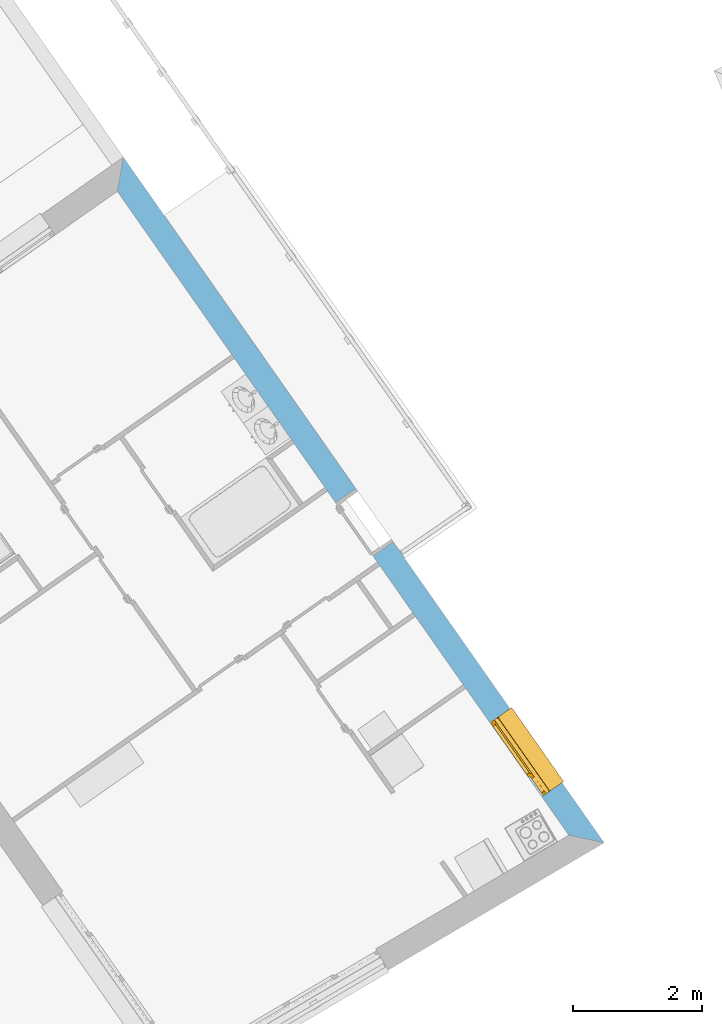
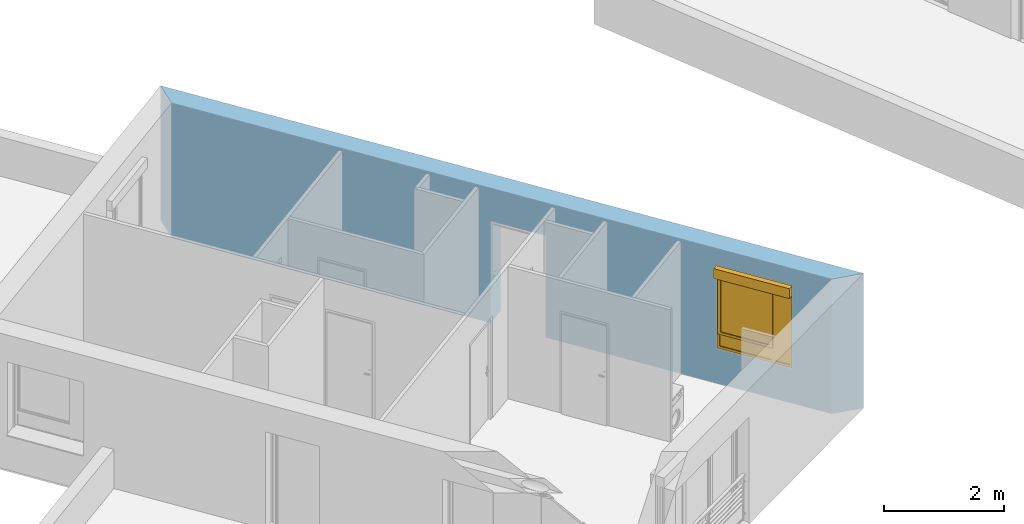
# One storey, part 29 of 121: 1 window, 2 openings, plus 1 element that does not belong to this part.
"""IFC2X3 building model written with IfcOpenShell, lengths in metres."""

from ifc_helpers import new_model, entity, si_unit, converted_unit, derived_unit, money_unit, direction, frame, origin_with_axes, origin_2d_with_axis, place, context, subcontext, project, spatial, polyline, rectangle, outline, extrude, open_shell, faceted_brep, surface_model, source, transform, mapped, material, layer, layer_set, layer_usage, type_object, element, fill, save


model = new_model("IFC2X3")

# Units and contexts
model_context = context("Model", 3, precision=1e-05, world=origin_with_axes(), true_north=direction((0.0, 1.0)))
body_context = subcontext(model_context, "Body", "Model", "MODEL_VIEW")
ifc_project = project(units=[si_unit("LENGTHUNIT", "METRE"), si_unit("AREAUNIT", "SQUARE_METRE"), si_unit("VOLUMEUNIT", "CUBIC_METRE"), converted_unit("PLANEANGLEUNIT", "DEGREE", entity("IfcPlaneAngleMeasure", 0.0174532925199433), si_unit("PLANEANGLEUNIT", "RADIAN"), dimensions=[0, 0, 0, 0, 0, 0, 0]), money_unit("CHF"), converted_unit("TIMEUNIT", "Year", entity("IfcTimeMeasure", 31557600.0), si_unit("TIMEUNIT", "SECOND"), dimensions=[0, 0, 1, 0, 0, 0, 0]), si_unit("MASSUNIT", "GRAM", prefix="KILO"), si_unit("THERMODYNAMICTEMPERATUREUNIT", "DEGREE_CELSIUS"), si_unit("LUMINOUSINTENSITYUNIT", "LUMEN"), si_unit("ENERGYUNIT", "JOULE", prefix="MEGA"), derived_unit("THERMALCONDUCTANCEUNIT", [(si_unit("POWERUNIT", "WATT"), 1), (si_unit("LENGTHUNIT", "METRE"), -1), (si_unit("THERMODYNAMICTEMPERATUREUNIT", "KELVIN"), -1)]), derived_unit("SPECIFICHEATCAPACITYUNIT", [(si_unit("ENERGYUNIT", "JOULE"), 1), (si_unit("MASSUNIT", "GRAM", prefix="KILO"), -1), (si_unit("THERMODYNAMICTEMPERATUREUNIT", "KELVIN"), -1)]), derived_unit("MASSDENSITYUNIT", [(si_unit("MASSUNIT", "GRAM", prefix="KILO"), 1), (si_unit("VOLUMEUNIT", "CUBIC_METRE"), -1)])], contexts=[model_context])

# Site, building, storey
site_placement = place(None, origin_with_axes())
site = spatial("IfcSite", under=ifc_project, at=site_placement, Name="Site", CompositionType="ELEMENT")
building_placement = place(site_placement, origin_with_axes())
building = spatial("IfcBuilding", under=site, at=building_placement, Name="Bâtiment", CompositionType="ELEMENT")
storey_placement = place(building_placement, frame((0.0, 0.0, 2.75), z_axis=(0.0, 0.0, 1.0), x_axis=(1.0, 0.0, 0.0)))
storey = spatial("IfcBuildingStorey", under=building, at=storey_placement, Name="Etage 1", CompositionType="ELEMENT", Elevation=2.75)

# Wall, openings, window
ifc_material_1 = material(Name="Parpaing 312445824")
ifc_layer_1 = layer(ifc_material_1, 0.22, ventilated="UNKNOWN")
ifc_material_2 = material(Name="Isolant styromousse 301821074")
ifc_layer_2 = layer(ifc_material_2, 0.16, ventilated="UNKNOWN")
ifc_layer_set = layer_set([ifc_layer_1, ifc_layer_2], Name="isol int 22+16 0836643197")
ifc_layer_usage = layer_usage(ifc_layer_set, "AXIS2", "NEGATIVE", 0.0)
wall_type = type_object("IfcWallType", Name="isol int 22+16 0836643197 380", PredefinedType="NOTDEFINED")
wall_placement = place(storey_placement, frame((9555.643873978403, -1059.576602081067, 57.7), z_axis=(0.0, 0.0, 1.0), x_axis=(0.5741598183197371, -0.8187432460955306, 0.0)))
wall = element("IfcWallStandardCase", 1, at=wall_placement, inside=storey, type_object=wall_type, material=ifc_layer_usage, Name="Mur-113", context=body_context, shape_type="SweptSolid", body=[
    extrude(outline(polyline([(0.3800000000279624, -0.3799999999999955), (12.545933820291, -0.3799999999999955), (12.95727342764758, 0.0), (0.0, 0.0), (0.3800000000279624, -0.3799999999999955)])), origin_with_axes(), (0.0, 0.0, 1.0), 2.75),
])
opening_1_placement = place(wall_placement, frame((11.11977432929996, 0.0, 0.7000000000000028), z_axis=(0.0, 0.0, 1.0), x_axis=(1.0, 0.0, 0.0)))
opening_1 = element("IfcOpeningElement", 2, at=opening_1_placement, cuts=wall, Name="Fen-045", context=body_context, shape_type="Brep", body=[
    faceted_brep([(-0.6999999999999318, -0.2200000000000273, 1.5), (0.7000000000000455, -0.2200000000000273, 1.5), (0.6999999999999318, 6.092077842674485, 1.5), (-0.7000000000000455, 6.092077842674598, 1.5), (-0.6999999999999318, -0.2200000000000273, 1.700000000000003), (0.7000000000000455, -0.2200000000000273, 1.700000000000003), (0.7000000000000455, -0.3000000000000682, 1.5), (0.7000000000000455, -0.3000000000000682, 0.0), (0.6999999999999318, 6.092077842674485, 0.0), (-0.7000000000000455, 6.092077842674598, 0.0), (-0.7000000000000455, -0.3000000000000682, 1.5), (-0.7000000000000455, -0.3000000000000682, 0.0), (-0.6999999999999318, -0.4800000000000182, 1.5), (-0.6999999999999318, -0.4800000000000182, 1.700000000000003), (0.7000000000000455, -0.4800000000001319, 1.700000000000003), (0.7000000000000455, -0.4800000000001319, 1.5), (0.7000000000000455, -6.472077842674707, 1.5), (0.7000000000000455, -6.472077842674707, 0.0), (-0.7000000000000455, -6.472077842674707, 0.0), (-0.7000000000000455, -6.472077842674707, 1.5)], [[[0, 1, 2, 3]], [[1, 0, 4, 5]], [[1, 6, 7, 8, 2]], [[2, 8, 9, 3]], [[10, 0, 3, 9, 11]], [[0, 10, 12, 13, 4]], [[14, 5, 4, 13]], [[6, 1, 5, 14, 15]], [[6, 15, 16, 17, 7]], [[11, 9, 8, 7, 17, 18]], [[12, 10, 11, 18, 19]], [[12, 15, 14, 13]], [[15, 12, 19, 16]], [[19, 18, 17, 16]]]),
])
opening_2_placement = place(wall_placement, frame((6.767124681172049, 0.0, 0.0), z_axis=(0.0, 0.0, 1.0), x_axis=(1.0, 0.0, 0.0)))
element("IfcOpeningElement", 3, at=opening_2_placement, cuts=wall, Name="Por-293", context=body_context, shape_type="SweptSolid", body=[
    extrude(rectangle(XDim=1.01000001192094, YDim=2.079999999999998, at=origin_2d_with_axis()), frame((5.960487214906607e-09, 0.3800000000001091, 1.039999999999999), z_axis=(0.0, 1.0, 0.0), x_axis=(1.0, 0.0, 0.0)), (0.0, 0.0, -1.0), 0.76),
])
window_style = type_object("IfcWindowStyle", Name="Fenêtre variable 27", ConstructionType="NOTDEFINED", OperationType="TRIPLE_PANEL_LEFT", ParameterTakesPrecedence=False, Sizeable=False)
shared_shape = source(origin_with_axes(), body_context, "Body", "SurfaceModel", [
    surface_model("IfcShellBasedSurfaceModel", [(0.7, -0.05100000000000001, 0.05), (-0.7, -0.05100000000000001, 0.05000000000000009), (-0.7, -0.05100000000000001, 0.04000000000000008), (0.7, -0.05100000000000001, 0.04), (-0.7, -0.3799999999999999, 0.02900000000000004), (0.7, -0.3799999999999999, 0.02899999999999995), (-0.7, -0.3799999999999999, 0.00900000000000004), (0.7, -0.3799999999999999, 0.008999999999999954), (-0.7, -0.3699999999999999, 0.01900000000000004), (0.7, -0.3699999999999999, 0.01899999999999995)], [open_shell([[[0, 1, 2, 3]], [[3, 2, 4, 5]], [[5, 4, 6, 7]], [[7, 6, 8, 9]]])]),
    faceted_brep([(0.7, -0.13, 1.7), (0.7, 0.13, 1.7), (0.697, 0.13, 1.7), (0.697, -0.13, 1.7), (0.7, -0.13, 1.5), (0.7, 0.13, 1.5), (0.697, 0.13, 1.5), (0.697, -0.13, 1.5)], [[[0, 1, 2, 3]], [[0, 4, 5, 1]], [[1, 5, 6, 2]], [[3, 2, 6, 7]], [[4, 0, 3, 7]], [[5, 4, 7, 6]]]),
    faceted_brep([(-0.6970000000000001, -0.1299999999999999, 1.7), (-0.6970000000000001, 0.1300000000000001, 1.7), (-0.7000000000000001, 0.1300000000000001, 1.7), (-0.7000000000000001, -0.1299999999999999, 1.7), (-0.6970000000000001, -0.1299999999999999, 1.5), (-0.6970000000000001, 0.1300000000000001, 1.5), (-0.7000000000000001, 0.1300000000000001, 1.5), (-0.7000000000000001, -0.1299999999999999, 1.5)], [[[0, 1, 2, 3]], [[0, 4, 5, 1]], [[1, 5, 6, 2]], [[3, 2, 6, 7]], [[4, 0, 3, 7]], [[5, 4, 7, 6]]]),
    faceted_brep([(0.697, -0.13, 1.5), (0.697, -0.13, 1.7), (-0.697, -0.1299999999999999, 1.7), (-0.697, -0.1299999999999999, 1.5), (0.697, -0.127, 1.5), (0.697, -0.127, 1.697), (0.697, 0.127, 1.697), (0.697, 0.127, 1.503), (0.697, -0.108, 1.503), (0.697, -0.108, 1.5), (0.697, 0.13, 1.5), (0.697, 0.13, 1.7), (-0.697, 0.1300000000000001, 1.7), (-0.697, 0.1300000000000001, 1.5), (-0.697, -0.1079999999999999, 1.5), (-0.697, -0.1079999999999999, 1.503), (-0.697, 0.1270000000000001, 1.503), (-0.697, 0.1270000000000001, 1.697), (-0.697, -0.1269999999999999, 1.697), (-0.697, -0.1269999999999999, 1.5)], [[[0, 1, 2, 3]], [[0, 4, 5, 6, 7, 8, 9, 10, 11, 1]], [[1, 11, 12, 2]], [[3, 2, 12, 13, 14, 15, 16, 17, 18, 19]], [[4, 0, 3, 19]], [[5, 4, 19, 18]], [[6, 5, 18, 17]], [[7, 6, 17, 16]], [[8, 7, 16, 15]], [[9, 8, 15, 14]], [[10, 9, 14, 13]], [[11, 10, 13, 12]]]),
    faceted_brep([(0.694, -0.08075423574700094, 1.585760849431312), (0.694, -0.07705479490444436, 1.571954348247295), (0.694, -0.07101408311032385, 1.559), (0.694, -0.06281564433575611, 1.547291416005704), (0.694, -0.05270858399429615, 1.537184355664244), (0.694, -0.04099999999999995, 1.528985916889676), (0.694, -0.02804565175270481, 1.522945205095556), (0.694, -0.01423915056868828, 1.519245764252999), (0.694, 0.0, 1.518), (0.694, 0.01423915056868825, 1.519245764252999), (0.694, 0.02804565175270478, 1.522945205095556), (0.694, 0.04099999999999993, 1.528985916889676), (0.694, 0.05270858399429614, 1.537184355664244), (0.694, 0.06281564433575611, 1.547291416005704), (0.694, 0.07101408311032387, 1.559), (0.694, 0.07705479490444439, 1.571954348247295), (0.694, 0.08075423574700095, 1.585760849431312), (0.694, 0.0819999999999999, 1.6), (0.694, 0.08075423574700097, 1.614239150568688), (0.694, 0.0770547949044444, 1.628045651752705), (0.694, 0.07101408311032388, 1.641), (0.694, 0.06281564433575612, 1.652708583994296), (0.694, 0.05270858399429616, 1.662815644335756), (0.694, 0.04099999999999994, 1.671014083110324), (0.694, 0.02804565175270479, 1.677054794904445), (0.694, 0.01423915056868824, 1.680754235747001), (0.694, 0.0, 1.682), (0.694, -0.01423915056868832, 1.680754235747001), (0.694, -0.02804565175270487, 1.677054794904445), (0.694, -0.04100000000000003, 1.671014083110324), (0.694, -0.05270858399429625, 1.662815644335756), (0.694, -0.06281564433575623, 1.652708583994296), (0.694, -0.07101408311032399, 1.641), (0.694, -0.07705479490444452, 1.628045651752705), (0.694, -0.0807542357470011, 1.614239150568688), (0.694, -0.08200000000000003, 1.6), (-0.694, -0.08075423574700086, 1.585760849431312), (-0.694, -0.07705479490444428, 1.571954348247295), (-0.694, -0.07101408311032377, 1.559), (-0.694, -0.06281564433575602, 1.547291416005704), (-0.694, -0.05270858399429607, 1.537184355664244), (-0.694, -0.04099999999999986, 1.528985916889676), (-0.694, -0.02804565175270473, 1.522945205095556), (-0.694, -0.0142391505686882, 1.519245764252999), (-0.694, 0.0, 1.518), (-0.694, 0.01423915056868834, 1.519245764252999), (-0.694, 0.02804565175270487, 1.522945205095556), (-0.694, 0.04100000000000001, 1.528985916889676), (-0.694, 0.05270858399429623, 1.537184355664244), (-0.694, 0.06281564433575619, 1.547291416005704), (-0.694, 0.07101408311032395, 1.559), (-0.694, 0.07705479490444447, 1.571954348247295), (-0.694, 0.08075423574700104, 1.585760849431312), (-0.694, 0.08199999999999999, 1.6), (-0.694, 0.08075423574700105, 1.614239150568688), (-0.694, 0.07705479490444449, 1.628045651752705), (-0.694, 0.07101408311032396, 1.641), (-0.694, 0.0628156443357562, 1.652708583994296), (-0.694, 0.05270858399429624, 1.662815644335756), (-0.694, 0.04100000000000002, 1.671014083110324), (-0.694, 0.02804565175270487, 1.677054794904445), (-0.694, 0.01423915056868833, 1.680754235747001), (-0.694, 0.0, 1.682), (-0.694, -0.01423915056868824, 1.680754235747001), (-0.694, -0.02804565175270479, 1.677054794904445), (-0.694, -0.04099999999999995, 1.671014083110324), (-0.694, -0.05270858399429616, 1.662815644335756), (-0.694, -0.06281564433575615, 1.652708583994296), (-0.694, -0.07101408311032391, 1.641), (-0.694, -0.07705479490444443, 1.628045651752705), (-0.694, -0.08075423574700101, 1.614239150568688), (-0.694, -0.08199999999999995, 1.6)], [[[0, 1, 2, 3, 4, 5, 6, 7, 8, 9, 10, 11, 12, 13, 14, 15, 16, 17, 18, 19, 20, 21, 22, 23, 24, 25, 26, 27, 28, 29, 30, 31, 32, 33, 34, 35]], [[1, 0, 36, 37]], [[2, 1, 37, 38]], [[3, 2, 38, 39]], [[4, 3, 39, 40]], [[5, 4, 40, 41]], [[6, 5, 41, 42]], [[7, 6, 42, 43]], [[8, 7, 43, 44]], [[9, 8, 44, 45]], [[10, 9, 45, 46]], [[11, 10, 46, 47]], [[12, 11, 47, 48]], [[13, 12, 48, 49]], [[14, 13, 49, 50]], [[15, 14, 50, 51]], [[16, 15, 51, 52]], [[17, 16, 52, 53]], [[18, 17, 53, 54]], [[19, 18, 54, 55]], [[20, 19, 55, 56]], [[21, 20, 56, 57]], [[22, 21, 57, 58]], [[23, 22, 58, 59]], [[24, 23, 59, 60]], [[25, 24, 60, 61]], [[26, 25, 61, 62]], [[27, 26, 62, 63]], [[28, 27, 63, 64]], [[29, 28, 64, 65]], [[30, 29, 65, 66]], [[31, 30, 66, 67]], [[32, 31, 67, 68]], [[33, 32, 68, 69]], [[34, 33, 69, 70]], [[35, 34, 70, 71]], [[0, 35, 71, 36]], [[36, 71, 70, 69, 68, 67, 66, 65, 64, 63, 62, 61, 60, 59, 58, 57, 56, 55, 54, 53, 52, 51, 50, 49, 48, 47, 46, 45, 44, 43, 42, 41, 40, 39, 38, 37]]]),
    faceted_brep([(-0.7, -0.105, 0.03), (-0.7, -0.13, 0.03), (-0.7, -0.1299999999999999, 1.5), (-0.7, -0.1049999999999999, 1.5), (-0.6749999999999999, -0.105, 0.03), (-0.6749999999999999, -0.108, 0.03), (-0.697, -0.108, 0.03), (-0.697, -0.127, 0.03), (-0.6749999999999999, -0.127, 0.03), (-0.6749999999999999, -0.13, 0.03), (-0.6749999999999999, -0.1299999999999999, 1.5), (-0.6749999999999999, -0.1269999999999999, 1.5), (-0.697, -0.1269999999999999, 1.5), (-0.697, -0.1079999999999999, 1.5), (-0.6749999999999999, -0.1079999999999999, 1.5), (-0.6749999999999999, -0.1049999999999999, 1.5)], [[[0, 1, 2, 3]], [[0, 4, 5, 6, 7, 8, 9, 1]], [[1, 9, 10, 2]], [[3, 2, 10, 11, 12, 13, 14, 15]], [[4, 0, 3, 15]], [[5, 4, 15, 14]], [[6, 5, 14, 13]], [[7, 6, 13, 12]], [[8, 7, 12, 11]], [[9, 8, 11, 10]]]),
    faceted_brep([(0.7, -0.105, 0.03), (0.7, -0.1049999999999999, 1.5), (0.7, -0.1299999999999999, 1.5), (0.7, -0.13, 0.03), (0.6749999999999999, -0.105, 0.03), (0.6749999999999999, -0.1049999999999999, 1.5), (0.6749999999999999, -0.1079999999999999, 1.5), (0.697, -0.1079999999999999, 1.5), (0.697, -0.1269999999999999, 1.5), (0.6749999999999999, -0.1269999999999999, 1.5), (0.6749999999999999, -0.1299999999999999, 1.5), (0.6749999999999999, -0.13, 0.03), (0.6749999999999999, -0.127, 0.03), (0.697, -0.127, 0.03), (0.697, -0.108, 0.03), (0.6749999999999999, -0.108, 0.03)], [[[0, 1, 2, 3]], [[4, 5, 1, 0]], [[1, 5, 6, 7, 8, 9, 10, 2]], [[3, 2, 10, 11]], [[0, 3, 11, 12, 13, 14, 15, 4]], [[15, 6, 5, 4]], [[14, 7, 6, 15]], [[13, 8, 7, 14]], [[12, 9, 8, 13]], [[11, 10, 9, 12]]]),
    surface_model("IfcShellBasedSurfaceModel", [(0.697, -0.115, 1.6), (-0.697, -0.1149999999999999, 1.6), (-0.697, -0.12, 1.6), (0.697, -0.12, 1.6), (0.697, -0.115, 1.6), (0.697, -0.12, 1.6), (-0.697, -0.1199999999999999, 1.6), (-0.697, -0.1149999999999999, 1.6)], [open_shell([[[0, 1, 2, 3]], [[4, 5, 6, 7]]])]),
    faceted_brep([(0.697, -0.115, 1.6), (0.697, -0.1166666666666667, 1.583333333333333), (-0.697, -0.1166666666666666, 1.583333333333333), (-0.697, -0.1149999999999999, 1.6), (0.697, -0.12, 1.6), (0.697, -0.1216666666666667, 1.583333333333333), (0.697, -0.1216666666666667, 1.566666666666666), (0.697, -0.12, 1.55), (0.697, -0.115, 1.55), (0.697, -0.1166666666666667, 1.566666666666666), (-0.697, -0.1166666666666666, 1.566666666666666), (-0.697, -0.1149999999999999, 1.55), (-0.697, -0.1199999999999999, 1.55), (-0.697, -0.1216666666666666, 1.566666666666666), (-0.697, -0.1216666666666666, 1.583333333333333), (-0.697, -0.1199999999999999, 1.6)], [[[0, 1, 2, 3]], [[0, 4, 5, 6, 7, 8, 9, 1]], [[1, 9, 10, 2]], [[3, 2, 10, 11, 12, 13, 14, 15]], [[4, 0, 3, 15]], [[5, 4, 15, 14]], [[6, 5, 14, 13]], [[7, 6, 13, 12]], [[8, 7, 12, 11]], [[9, 8, 11, 10]]]),
    faceted_brep([(0.697, -0.115, 1.55), (0.697, -0.1166666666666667, 1.533333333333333), (-0.697, -0.1166666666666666, 1.533333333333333), (-0.697, -0.1149999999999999, 1.55), (0.697, -0.12, 1.55), (0.697, -0.1216666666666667, 1.533333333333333), (0.697, -0.1216666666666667, 1.516666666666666), (0.697, -0.12, 1.5), (0.697, -0.115, 1.5), (0.697, -0.1166666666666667, 1.516666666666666), (-0.697, -0.1166666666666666, 1.516666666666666), (-0.697, -0.1149999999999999, 1.5), (-0.697, -0.1199999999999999, 1.5), (-0.697, -0.1216666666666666, 1.516666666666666), (-0.697, -0.1216666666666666, 1.533333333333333), (-0.697, -0.1199999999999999, 1.55)], [[[0, 1, 2, 3]], [[0, 4, 5, 6, 7, 8, 9, 1]], [[1, 9, 10, 2]], [[3, 2, 10, 11, 12, 13, 14, 15]], [[4, 0, 3, 15]], [[5, 4, 15, 14]], [[6, 5, 14, 13]], [[7, 6, 13, 12]], [[8, 7, 12, 11]], [[9, 8, 11, 10]]]),
    faceted_brep([(0.6749999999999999, 0.0, 1.45), (0.6749999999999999, -0.02500000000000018, 1.45), (0.6499999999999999, -0.02500000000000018, 1.45), (0.6499999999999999, -0.05000000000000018, 1.45), (0.7, -0.05000000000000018, 1.45), (0.7, 0.0, 1.45), (0.6749999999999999, 0.0, 0.3099999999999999), (0.6749999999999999, -0.02500000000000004, 0.3099999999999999), (0.6499999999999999, -0.02500000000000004, 0.335), (0.6499999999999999, -0.02500000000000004, 0.3099999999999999), (0.6499999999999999, -0.05000000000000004, 0.335), (0.6499999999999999, -0.05000000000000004, 0.265), (0.6499999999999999, -0.05000000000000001, 0.05000000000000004), (0.7, -0.05000000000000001, 0.05000000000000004), (0.7, 0.0, 0.05000000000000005), (0.6499999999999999, 0.0, 0.05000000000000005), (0.6499999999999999, 0.0, 0.265), (0.6499999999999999, 0.0, 0.3099999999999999)], [[[0, 1, 2, 3, 4, 5]], [[1, 0, 6, 7]], [[8, 2, 1, 7, 9]], [[2, 8, 10, 3]], [[10, 11, 12, 13, 4, 3]], [[5, 4, 13, 14]], [[6, 0, 5, 14, 15, 16, 17]], [[6, 17, 9, 7]], [[9, 17, 16, 11, 10, 8]], [[15, 12, 11, 16]], [[14, 13, 12, 15]]]),
    faceted_brep([(-0.3068894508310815, -0.02500000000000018, 1.45), (-0.3318894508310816, -0.02500000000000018, 1.45), (-0.3318894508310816, 0.0, 1.45), (-0.3768894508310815, 0.0, 1.45), (-0.3768894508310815, -0.05000000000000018, 1.45), (-0.3068894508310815, -0.05000000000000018, 1.45), (-0.3068894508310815, -0.02500000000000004, 0.335), (-0.3068894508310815, -0.02500000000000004, 0.3099999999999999), (-0.3318894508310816, -0.02500000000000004, 0.3099999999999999), (-0.3318894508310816, 0.0, 0.3099999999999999), (-0.3068894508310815, 0.0, 0.3099999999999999), (-0.3068894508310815, 0.0, 0.265), (-0.3068894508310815, 0.0, 0.05000000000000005), (-0.3768894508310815, 0.0, 0.05000000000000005), (-0.3768894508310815, -0.05000000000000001, 0.05000000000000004), (-0.3068894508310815, -0.05000000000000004, 0.265), (-0.3068894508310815, -0.05000000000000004, 0.335), (-0.3068894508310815, -0.05000000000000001, 0.05000000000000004)], [[[0, 1, 2, 3, 4, 5]], [[1, 0, 6, 7, 8]], [[9, 2, 1, 8]], [[9, 10, 11, 12, 13, 3, 2]], [[13, 14, 4, 3]], [[15, 16, 5, 4, 14, 17]], [[6, 0, 5, 16]], [[7, 6, 16, 15, 11, 10]], [[10, 9, 8, 7]], [[11, 15, 17, 12]], [[12, 17, 14, 13]]]),
    faceted_brep([(0.6499999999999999, -0.02500000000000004, 0.335), (-0.3068894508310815, -0.02500000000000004, 0.335), (-0.3068894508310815, -0.05000000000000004, 0.335), (0.6499999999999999, -0.05000000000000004, 0.335), (-0.3068894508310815, -0.02500000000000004, 0.3099999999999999), (0.6499999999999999, -0.02500000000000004, 0.3099999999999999), (-0.3068894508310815, 0.0, 0.3099999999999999), (-0.3068894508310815, 0.0, 0.265), (-0.3068894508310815, -0.05000000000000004, 0.265), (0.6499999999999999, -0.05000000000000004, 0.265), (0.6499999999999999, 0.0, 0.265), (0.6499999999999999, 0.0, 0.3099999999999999)], [[[0, 1, 2, 3]], [[4, 1, 0, 5]], [[4, 6, 7, 8, 2, 1]], [[2, 8, 9, 3]], [[5, 0, 3, 9, 10, 11]], [[11, 6, 4, 5]], [[6, 11, 10, 7]], [[10, 9, 8, 7]]]),
    faceted_brep([(0.6749999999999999, 0.0, 1.45), (0.6749999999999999, 0.0, 1.475), (-0.3318894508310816, 0.0, 1.475), (-0.3318894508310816, 0.0, 1.45), (-0.3768894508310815, 0.0, 1.45), (-0.6499999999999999, 0.0, 1.45), (-0.7, 0.0, 1.45), (-0.7, 0.0, 1.5), (0.7, 0.0, 1.5), (0.7, 0.0, 1.45), (0.6749999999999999, -0.02500000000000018, 1.45), (0.6749999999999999, -0.02500000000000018, 1.475), (-0.3318894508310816, -0.02500000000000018, 1.475), (-0.3318894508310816, -0.02500000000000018, 1.45), (-0.3068894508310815, -0.02500000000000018, 1.45), (-0.3068894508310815, -0.05000000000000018, 1.45), (-0.3768894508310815, -0.05000000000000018, 1.45), (-0.6499999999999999, -0.05000000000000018, 1.45), (-0.7, -0.05000000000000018, 1.45), (-0.7, -0.05000000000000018, 1.5), (0.7, -0.05000000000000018, 1.5), (0.7, -0.05000000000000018, 1.45), (0.6499999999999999, -0.05000000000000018, 1.45), (0.6499999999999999, -0.02500000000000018, 1.45)], [[[0, 1, 2, 3, 4, 5, 6, 7, 8, 9]], [[1, 0, 10, 11]], [[2, 1, 11, 12]], [[3, 2, 12, 13]], [[13, 14, 15, 16, 4, 3]], [[4, 16, 17, 5]], [[5, 17, 18, 6]], [[6, 18, 19, 7]], [[7, 19, 20, 8]], [[8, 20, 21, 9]], [[10, 0, 9, 21, 22, 23]], [[14, 13, 12, 11, 10, 23]], [[14, 23, 22, 15]], [[16, 15, 22, 21, 20, 19, 18, 17]]]),
    faceted_brep([(-0.6499999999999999, -0.05000000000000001, 0.05), (-0.7, -0.05000000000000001, 0.05), (-0.7, 0.0, 0.05000000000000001), (-0.6499999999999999, 0.0, 0.05000000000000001), (-0.6499999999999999, -0.05000000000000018, 1.45), (-0.7, -0.05000000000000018, 1.45), (-0.7, 0.0, 1.45), (-0.6499999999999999, 0.0, 1.45)], [[[0, 1, 2, 3]], [[0, 4, 5, 1]], [[1, 5, 6, 2]], [[3, 2, 6, 7]], [[4, 0, 3, 7]], [[5, 4, 7, 6]]]),
    faceted_brep([(0.6499999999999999, -0.05000000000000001, 0.05), (0.7, -0.05000000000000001, 0.05), (0.7, 0.0, 0.05000000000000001), (0.6499999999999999, 0.0, 0.05000000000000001), (-0.3068894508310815, -0.05000000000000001, 0.05), (-0.3768894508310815, -0.05000000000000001, 0.05), (-0.6499999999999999, -0.05000000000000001, 0.05), (-0.7, -0.05000000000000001, 0.05), (-0.7, -0.05, 0.0), (0.7, -0.05, 0.0), (0.7, 0.0, 0.0), (-0.7, 0.0, 0.0), (-0.7, 0.0, 0.05000000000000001), (-0.6499999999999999, 0.0, 0.05000000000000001), (-0.3768894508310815, 0.0, 0.05000000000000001), (-0.3068894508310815, 0.0, 0.05000000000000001)], [[[0, 1, 2, 3]], [[0, 4, 5, 6, 7, 8, 9, 1]], [[1, 9, 10, 2]], [[3, 2, 10, 11, 12, 13, 14, 15]], [[4, 0, 3, 15]], [[5, 4, 15, 14]], [[6, 5, 14, 13]], [[7, 6, 13, 12]], [[8, 7, 12, 11]], [[9, 8, 11, 10]]]),
    faceted_brep([(0.625, -0.02500000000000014, 1.425), (0.6749999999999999, -0.02500000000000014, 1.425), (0.6749999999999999, 0.02499999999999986, 1.425), (0.625, 0.02499999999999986, 1.425), (0.625, -0.02500000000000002, 0.3599999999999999), (0.6749999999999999, -0.02500000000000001, 0.3599999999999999), (0.6749999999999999, 0.02499999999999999, 0.3599999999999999), (0.625, 0.02499999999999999, 0.3599999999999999)], [[[0, 1, 2, 3]], [[0, 4, 5, 1]], [[1, 5, 6, 2]], [[3, 2, 6, 7]], [[4, 0, 3, 7]], [[5, 4, 7, 6]]]),
    faceted_brep([(-0.2818894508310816, -0.02500000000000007, 0.3599999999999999), (-0.3318894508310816, -0.02500000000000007, 0.3599999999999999), (-0.3318894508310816, 0.02499999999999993, 0.3599999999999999), (-0.2818894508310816, 0.02499999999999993, 0.3599999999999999), (-0.2818894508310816, -0.0250000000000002, 1.425), (-0.3318894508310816, -0.0250000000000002, 1.425), (-0.3318894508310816, 0.0249999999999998, 1.425), (-0.2818894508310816, 0.0249999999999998, 1.425)], [[[0, 1, 2, 3]], [[0, 4, 5, 1]], [[1, 5, 6, 2]], [[3, 2, 6, 7]], [[4, 0, 3, 7]], [[5, 4, 7, 6]]]),
    faceted_brep([(-0.3318894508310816, -0.02500000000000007, 0.3099999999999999), (-0.3318894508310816, -0.02500000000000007, 0.3599999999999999), (-0.3318894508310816, 0.02499999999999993, 0.3599999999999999), (-0.3318894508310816, 0.02499999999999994, 0.3099999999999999), (0.6749999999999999, -0.025, 0.3099999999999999), (0.6749999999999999, -0.02500000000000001, 0.3599999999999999), (0.625, -0.02500000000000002, 0.3599999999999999), (-0.2818894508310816, -0.02500000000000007, 0.3599999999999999), (-0.2818894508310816, 0.02499999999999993, 0.3599999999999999), (0.625, 0.02499999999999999, 0.3599999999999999), (0.6749999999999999, 0.02499999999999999, 0.3599999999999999), (0.6749999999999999, 0.02499999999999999, 0.3099999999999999)], [[[0, 1, 2, 3]], [[0, 4, 5, 6, 7, 1]], [[1, 7, 8, 2]], [[3, 2, 8, 9, 10, 11]], [[4, 0, 3, 11]], [[5, 4, 11, 10]], [[6, 5, 10, 9]], [[7, 6, 9, 8]]]),
    faceted_brep([(0.6749999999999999, -0.02500000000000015, 1.475), (0.6749999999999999, -0.02500000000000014, 1.425), (0.6749999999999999, 0.02499999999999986, 1.425), (0.6749999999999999, 0.02499999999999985, 1.475), (-0.3318894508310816, -0.02500000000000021, 1.475), (-0.3318894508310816, -0.0250000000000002, 1.425), (-0.2818894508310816, -0.0250000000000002, 1.425), (0.625, -0.02500000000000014, 1.425), (0.625, 0.02499999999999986, 1.425), (-0.2818894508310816, 0.0249999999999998, 1.425), (-0.3318894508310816, 0.0249999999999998, 1.425), (-0.3318894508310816, 0.02499999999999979, 1.475)], [[[0, 1, 2, 3]], [[0, 4, 5, 6, 7, 1]], [[1, 7, 8, 2]], [[3, 2, 8, 9, 10, 11]], [[4, 0, 3, 11]], [[5, 4, 11, 10]], [[6, 5, 10, 9]], [[7, 6, 9, 8]]]),
    surface_model("IfcShellBasedSurfaceModel", [(0.625, -0.01000000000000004, 0.3599999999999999), (0.625, -0.01000000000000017, 1.425), (-0.2818894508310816, -0.01000000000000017, 1.425), (-0.2818894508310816, -0.01000000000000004, 0.3599999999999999)], [open_shell([[[0, 1, 2, 3]]])]),
    surface_model("IfcShellBasedSurfaceModel", [(0.625, 0.009999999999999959, 0.3599999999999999), (-0.2818894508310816, 0.009999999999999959, 0.3599999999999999), (-0.2818894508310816, 0.00999999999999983, 1.425), (0.625, 0.00999999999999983, 1.425)], [open_shell([[[0, 1, 2, 3]]])]),
    surface_model("IfcShellBasedSurfaceModel", [(-0.3768894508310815, -0.035, 0.05), (-0.3768894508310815, -0.03500000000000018, 1.45), (-0.65, -0.03500000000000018, 1.45), (-0.65, -0.035, 0.05)], [open_shell([[[0, 1, 2, 3]]])]),
    surface_model("IfcShellBasedSurfaceModel", [(-0.3768894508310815, -0.015, 0.05), (-0.65, -0.015, 0.05), (-0.65, -0.01500000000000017, 1.45), (-0.3768894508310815, -0.01500000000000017, 1.45)], [open_shell([[[0, 1, 2, 3]]])]),
    surface_model("IfcShellBasedSurfaceModel", [(0.6499999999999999, -0.035, 0.05), (0.6499999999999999, -0.03500000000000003, 0.265), (-0.3068894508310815, -0.03500000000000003, 0.265), (-0.3068894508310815, -0.035, 0.05)], [open_shell([[[0, 1, 2, 3]]])]),
    surface_model("IfcShellBasedSurfaceModel", [(0.6499999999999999, -0.015, 0.05), (-0.3068894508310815, -0.015, 0.05), (-0.3068894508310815, -0.01500000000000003, 0.265), (0.6499999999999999, -0.01500000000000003, 0.265)], [open_shell([[[0, 1, 2, 3]]])]),
])
window_placement = place(opening_1_placement, frame((0.7000000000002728, 0.0, 0.0), z_axis=(0.0, 0.0, 1.0), x_axis=(-1.0, 0.0, 0.0)))
window = element("IfcWindow", 4, at=window_placement, inside=storey, type_object=window_style, Name="Fen-045", OverallHeight=1.5, OverallWidth=1.4, context=body_context, shape_type="MappedRepresentation", body=[
    mapped(shared_shape, transform((0.7000000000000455, 0.3499999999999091, 0.0))),
])
fill(opening_1, window)

save(model, "model.ifc")
